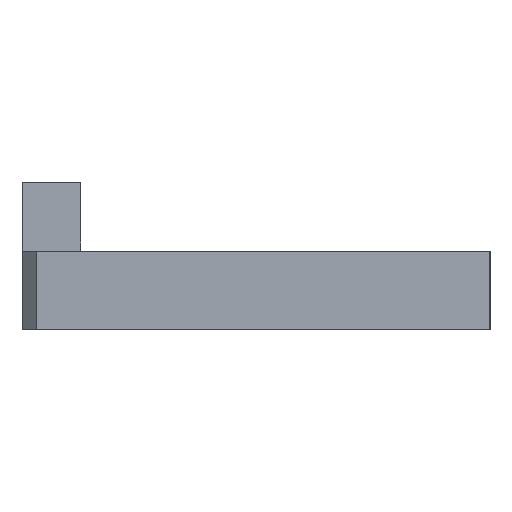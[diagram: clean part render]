
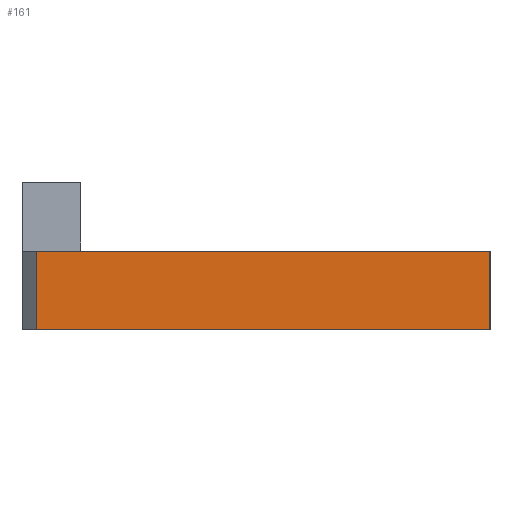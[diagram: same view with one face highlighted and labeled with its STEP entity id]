
A CAD part, left-side view. The second image highlights one B-rep face of the part: STEP entity #161.
In plain terms, the highlighted planar face has unit normal (-1, 0, 0).
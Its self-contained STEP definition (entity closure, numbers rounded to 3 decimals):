
#3 = CARTESIAN_POINT ( 'NONE',  ( -94., 0., 0. ) ) ;
#27 = EDGE_CURVE ( 'NONE', #296, #191, #293, .T. ) ;
#42 = CARTESIAN_POINT ( 'NONE',  ( -94., 92.3, 16. ) ) ;
#63 = CARTESIAN_POINT ( 'NONE',  ( -94., 92.3, 16. ) ) ;
#104 = EDGE_LOOP ( 'NONE', ( #449, #902, #252, #213 ) ) ;
#109 = CARTESIAN_POINT ( 'NONE',  ( -94., 92.3, 0. ) ) ;
#116 = LINE ( 'NONE', #42, #292 ) ;
#144 = VERTEX_POINT ( 'NONE', #63 ) ;
#161 = ADVANCED_FACE ( 'NONE', ( #485 ), #272, .F. ) ;
#165 = DIRECTION ( 'NONE',  ( 0., 0., -1. ) ) ;
#191 = VERTEX_POINT ( 'NONE', #3 ) ;
#213 = ORIENTED_EDGE ( 'NONE', *, *, #376, .T. ) ;
#252 = ORIENTED_EDGE ( 'NONE', *, *, #759, .F. ) ;
#256 = DIRECTION ( 'NONE',  ( 0., 0., -1. ) ) ;
#272 = PLANE ( 'NONE',  #549 ) ;
#292 = VECTOR ( 'NONE', #594, 1000. ) ;
#293 = LINE ( 'NONE', #375, #374 ) ;
#296 = VERTEX_POINT ( 'NONE', #109 ) ;
#344 = DIRECTION ( 'NONE',  ( 1., 0., 0. ) ) ;
#374 = VECTOR ( 'NONE', #432, 1000. ) ;
#375 = CARTESIAN_POINT ( 'NONE',  ( -94., 92.3, 0. ) ) ;
#376 = EDGE_CURVE ( 'NONE', #144, #296, #824, .T. ) ;
#377 = CARTESIAN_POINT ( 'NONE',  ( -94., 0., 16. ) ) ;
#415 = CARTESIAN_POINT ( 'NONE',  ( -94., 92.3, 16. ) ) ;
#432 = DIRECTION ( 'NONE',  ( 0., -1., 0. ) ) ;
#443 = VERTEX_POINT ( 'NONE', #529 ) ;
#449 = ORIENTED_EDGE ( 'NONE', *, *, #27, .T. ) ;
#482 = VECTOR ( 'NONE', #165, 1000. ) ;
#485 = FACE_OUTER_BOUND ( 'NONE', #104, .T. ) ;
#529 = CARTESIAN_POINT ( 'NONE',  ( -94., 0., 16. ) ) ;
#549 = AXIS2_PLACEMENT_3D ( 'NONE', #693, #344, #764 ) ;
#594 = DIRECTION ( 'NONE',  ( 0., -1., 0. ) ) ;
#693 = CARTESIAN_POINT ( 'NONE',  ( -94., 92.3, 16. ) ) ;
#731 = EDGE_CURVE ( 'NONE', #443, #191, #804, .T. ) ;
#759 = EDGE_CURVE ( 'NONE', #144, #443, #116, .T. ) ;
#764 = DIRECTION ( 'NONE',  ( 0., 0., -1. ) ) ;
#804 = LINE ( 'NONE', #377, #482 ) ;
#811 = VECTOR ( 'NONE', #256, 1000. ) ;
#824 = LINE ( 'NONE', #415, #811 ) ;
#902 = ORIENTED_EDGE ( 'NONE', *, *, #731, .F. ) ;
